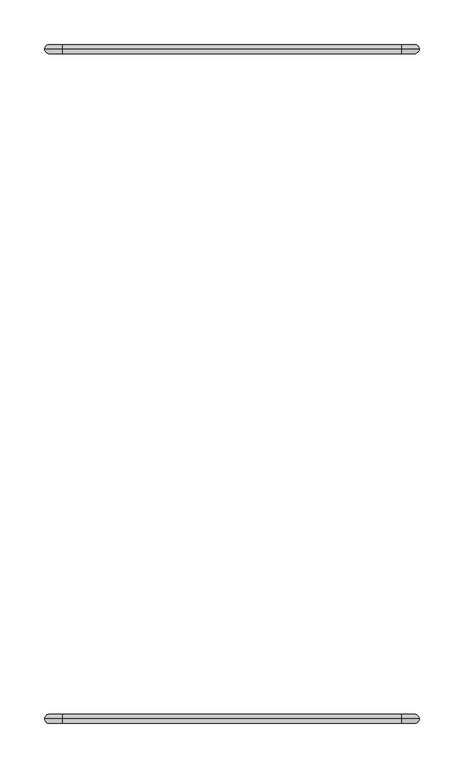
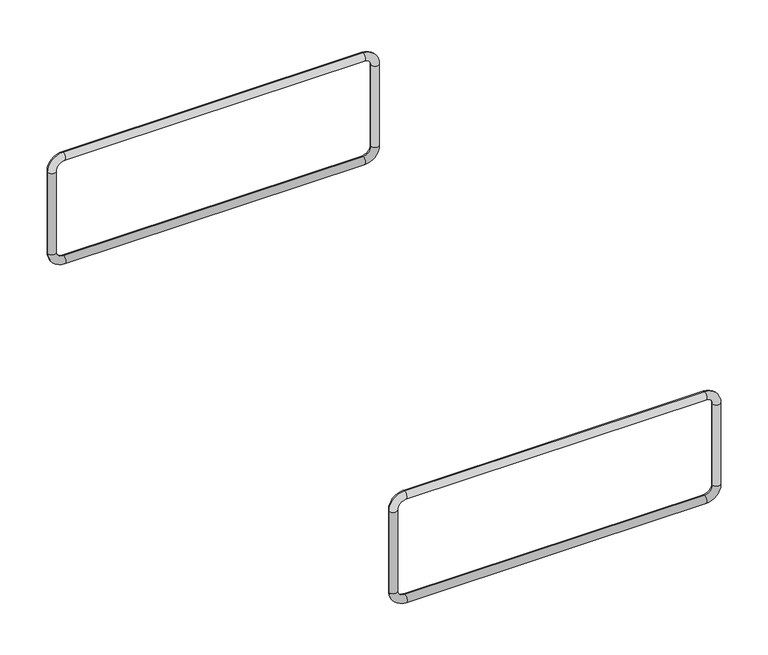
"""IFC4 building model written with IfcOpenShell, lengths in millimetres: fastener geometry, ACINOXplus_Typenreihe_Ux-Ox : OC+ S1."""

from ifc_helpers import new_model, si_unit, point, frame, origin, place, context, project, spatial, circle_curve, ellipse_curve, trimmed, source, transform, mapped, element, save
from ifc_brep_helpers import cylinder_surface, revolved_surface, advanced_brep


def fastener_2ea23784(model_context):
    return source(origin(), model_context, "Body", "AdvancedBrep", [
        advanced_brep(
        [(190.0, 375.0, -35.5), (190.0, 375.0, -25.5), (-190.0, 375.0, -25.5), (-190.0, 375.0, -35.5), (-200.0, 375.0, -45.5), (-210.0, 375.0, -45.5), (-210.0, 375.0, -154.5), (-200.0, 375.0, -154.5), (-190.0, 375.0, -164.5), (-190.0, 375.0, -174.5), (190.0, 375.0, -174.5), (190.0, 375.0, -164.5), (200.0, 375.0, -154.5), (210.0, 375.0, -154.5), (210.0, 375.0, -45.5), (200.0, 375.0, -45.5)],
        [
            (0, 1, circle_curve(frame((190.0, 375.0, -30.5), z_axis=(-1.0, 0.0, 0.0), x_axis=(0.0, 0.0, -1.0)), 5.0)),
            (1, 2),
            (2, 3, circle_curve(frame((-190.0, 375.0, -30.5), z_axis=(1.0, 0.0, 0.0), x_axis=(0.0, 0.0, -1.0)), 5.0)),
            (3, 0),
            (1, 0, circle_curve(frame((190.0, 375.0, -30.5), z_axis=(-1.0, 0.0, 0.0), x_axis=(0.0, 0.0, -1.0)), 5.0)),
            (3, 2, circle_curve(frame((-190.0, 375.0, -30.5), z_axis=(1.0, 0.0, 0.0), x_axis=(0.0, 0.0, -1.0)), 5.0)),
            (4, 3, circle_curve(frame((-190.0, 375.0, -45.5), z_axis=(0.0, 1.0, 0.0), x_axis=(0.0, 0.0, 1.0)), 10.0)),
            (2, 5, circle_curve(frame((-190.0, 375.0, -45.5), z_axis=(0.0, -1.0, 0.0), x_axis=(0.0, 0.0, 1.0)), 20.0)),
            (5, 4, circle_curve(frame((-205.0, 375.0, -45.5), z_axis=(0.0, 0.0, 1.0), x_axis=(1.0, 0.0, 0.0)), 5.0)),
            (4, 5, circle_curve(frame((-205.0, 375.0, -45.5), z_axis=(0.0, 0.0, 1.0), x_axis=(1.0, 0.0, 0.0)), 5.0)),
            (5, 6),
            (6, 7, circle_curve(frame((-205.0, 375.0, -154.5), z_axis=(0.0, 0.0, 1.0), x_axis=(1.0, 0.0, 0.0)), 5.0)),
            (7, 4),
            (7, 6, circle_curve(frame((-205.0, 375.0, -154.5), z_axis=(0.0, 0.0, 1.0), x_axis=(1.0, 0.0, 0.0)), 5.0)),
            (8, 7, circle_curve(frame((-190.0, 375.0, -154.5), z_axis=(0.0, 1.0, 0.0), x_axis=(-1.0, 0.0, 0.0)), 10.0)),
            (6, 9, circle_curve(frame((-190.0, 375.0, -154.5), z_axis=(0.0, -1.0, 0.0), x_axis=(-1.0, 0.0, 0.0)), 20.0)),
            (9, 8, circle_curve(frame((-190.0, 375.0, -169.5), z_axis=(-1.0, 0.0, 0.0), x_axis=(0.0, 0.0, 1.0)), 5.0)),
            (8, 9, circle_curve(frame((-190.0, 375.0, -169.5), z_axis=(-1.0, 0.0, 0.0), x_axis=(0.0, 0.0, 1.0)), 5.0)),
            (9, 10),
            (10, 11, circle_curve(frame((190.0, 375.0, -169.5), z_axis=(-1.0, 0.0, 0.0), x_axis=(0.0, 0.0, 1.0)), 5.0)),
            (11, 8),
            (11, 10, circle_curve(frame((190.0, 375.0, -169.5), z_axis=(-1.0, 0.0, 0.0), x_axis=(0.0, 0.0, 1.0)), 5.0)),
            (12, 11, circle_curve(frame((190.0, 375.0, -154.5), z_axis=(0.0, 1.0, 0.0), x_axis=(0.0, 0.0, -1.0)), 10.0)),
            (10, 13, circle_curve(frame((190.0, 375.0, -154.5), z_axis=(0.0, -1.0, 0.0), x_axis=(0.0, 0.0, -1.0)), 20.0)),
            (13, 12, circle_curve(frame((205.0, 375.0, -154.5), z_axis=(0.0, 0.0, -1.0), x_axis=(-1.0, 0.0, 0.0)), 5.0)),
            (12, 13, circle_curve(frame((205.0, 375.0, -154.5), z_axis=(0.0, 0.0, -1.0), x_axis=(-1.0, 0.0, 0.0)), 5.0)),
            (13, 14),
            (14, 15, circle_curve(frame((205.0, 375.0, -45.5), z_axis=(0.0, 0.0, -1.0), x_axis=(-1.0, 0.0, 0.0)), 5.0)),
            (15, 12),
            (15, 14, circle_curve(frame((205.0, 375.0, -45.5), z_axis=(0.0, 0.0, -1.0), x_axis=(-1.0, 0.0, 0.0)), 5.0)),
            (0, 15, circle_curve(frame((190.0, 375.0, -45.5), z_axis=(0.0, 1.0, 0.0), x_axis=(1.0, 0.0, 0.0)), 10.0)),
            (14, 1, circle_curve(frame((190.0, 375.0, -45.5), z_axis=(0.0, -1.0, 0.0), x_axis=(1.0, 0.0, 0.0)), 20.0)),
        ],
        [
            cylinder_surface(frame((190.0, 375.0, -30.5), z_axis=(1.0, 0.0, 0.0), x_axis=(0.0, 0.0, -1.0)), 5.0),
            revolved_surface(trimmed(ellipse_curve(frame((-190.0, 375.0, -30.5), z_axis=(1.0, 0.0, 0.0), x_axis=(0.0, 0.0, -1.0)), 5.0, 5.0), [point((-190.0, 375.0, -25.5))], [point((-190.0, 375.0, -35.5))], True, "CARTESIAN"), (-190.0, 375.0, -45.5), (0.0, -1.0, 0.0)),
            revolved_surface(trimmed(ellipse_curve(frame((-190.0, 375.0, -30.5), z_axis=(1.0, 0.0, 0.0), x_axis=(0.0, 0.0, -1.0)), 5.0, 5.0), [point((-190.0, 375.0, -35.5))], [point((-190.0, 375.0, -25.5))], True, "CARTESIAN"), (-190.0, 375.0, -45.5), (0.0, -1.0, 0.0)),
            cylinder_surface(frame((-205.0, 375.0, -45.5), z_axis=(0.0, 0.0, 1.0), x_axis=(1.0, 0.0, 0.0)), 5.0),
            revolved_surface(trimmed(ellipse_curve(frame((-205.0, 375.0, -154.5), z_axis=(0.0, 0.0, 1.0), x_axis=(1.0, 0.0, 0.0)), 5.0, 5.0), [point((-210.0, 375.0, -154.5))], [point((-200.0, 375.0, -154.5))], True, "CARTESIAN"), (-190.0, 375.0, -154.5), (0.0, -1.0, 0.0)),
            revolved_surface(trimmed(ellipse_curve(frame((-205.0, 375.0, -154.5), z_axis=(0.0, 0.0, 1.0), x_axis=(1.0, 0.0, 0.0)), 5.0, 5.0), [point((-200.0, 375.0, -154.5))], [point((-210.0, 375.0, -154.5))], True, "CARTESIAN"), (-190.0, 375.0, -154.5), (0.0, -1.0, 0.0)),
            cylinder_surface(frame((-190.0, 375.0, -169.5), z_axis=(-1.0, 0.0, 0.0), x_axis=(0.0, 0.0, 1.0)), 5.0),
            revolved_surface(trimmed(ellipse_curve(frame((190.0, 375.0, -169.5), z_axis=(-1.0, 0.0, 0.0), x_axis=(0.0, 0.0, 1.0)), 5.0, 5.0), [point((190.0, 375.0, -174.5))], [point((190.0, 375.0, -164.5))], True, "CARTESIAN"), (190.0, 375.0, -154.5), (0.0, -1.0, 0.0)),
            revolved_surface(trimmed(ellipse_curve(frame((190.0, 375.0, -169.5), z_axis=(-1.0, 0.0, 0.0), x_axis=(0.0, 0.0, 1.0)), 5.0, 5.0), [point((190.0, 375.0, -164.5))], [point((190.0, 375.0, -174.5))], True, "CARTESIAN"), (190.0, 375.0, -154.5), (0.0, -1.0, 0.0)),
            cylinder_surface(frame((205.0, 375.0, -154.5), z_axis=(0.0, 0.0, -1.0), x_axis=(-1.0, 0.0, 0.0)), 5.0),
            revolved_surface(trimmed(ellipse_curve(frame((205.0, 375.0, -45.5), z_axis=(0.0, 0.0, -1.0), x_axis=(-1.0, 0.0, 0.0)), 5.0, 5.0), [point((210.0, 375.0, -45.5))], [point((200.0, 375.0, -45.5))], True, "CARTESIAN"), (190.0, 375.0, -45.5), (0.0, -1.0, 0.0)),
            revolved_surface(trimmed(ellipse_curve(frame((205.0, 375.0, -45.5), z_axis=(0.0, 0.0, -1.0), x_axis=(-1.0, 0.0, 0.0)), 5.0, 5.0), [point((200.0, 375.0, -45.5))], [point((210.0, 375.0, -45.5))], True, "CARTESIAN"), (190.0, 375.0, -45.5), (0.0, -1.0, 0.0)),
        ],
        [
            (0, [[1, 2, 3, 4]]),
            (0, [[5, -4, 6, -2]]),
            (1, [[7, -3, 8, 9]]),
            (2, [[-8, -6, -7, 10]]),
            (3, [[-9, 11, 12, 13]]),
            (3, [[-10, -13, 14, -11]]),
            (4, [[15, -12, 16, 17]]),
            (5, [[-16, -14, -15, 18]]),
            (6, [[-17, 19, 20, 21]]),
            (6, [[-18, -21, 22, -19]]),
            (7, [[23, -20, 24, 25]]),
            (8, [[-24, -22, -23, 26]]),
            (9, [[-25, 27, 28, 29]]),
            (9, [[-26, -29, 30, -27]]),
            (10, [[31, -28, 32, -1]]),
            (11, [[-32, -30, -31, -5]]),
        ],
    ),
        advanced_brep(
        [(190.0, -375.0, -35.5), (190.0, -375.0, -25.5), (-190.0, -375.0, -25.5), (-190.0, -375.0, -35.5), (-200.0, -375.0, -45.5), (-210.0, -375.0, -45.5), (-210.0, -375.0, -154.5), (-200.0, -375.0, -154.5), (-190.0, -375.0, -164.5), (-190.0, -375.0, -174.5), (190.0, -375.0, -174.5), (190.0, -375.0, -164.5), (200.0, -375.0, -154.5), (210.0, -375.0, -154.5), (210.0, -375.0, -45.5), (200.0, -375.0, -45.5)],
        [
            (0, 1, circle_curve(frame((190.0, -375.0, -30.5), z_axis=(-1.0, 0.0, 0.0), x_axis=(0.0, 0.0, -1.0)), 5.0)),
            (1, 2),
            (2, 3, circle_curve(frame((-190.0, -375.0, -30.5), z_axis=(1.0, 0.0, 0.0), x_axis=(0.0, 0.0, -1.0)), 5.0)),
            (3, 0),
            (1, 0, circle_curve(frame((190.0, -375.0, -30.5), z_axis=(-1.0, 0.0, 0.0), x_axis=(0.0, 0.0, -1.0)), 5.0)),
            (3, 2, circle_curve(frame((-190.0, -375.0, -30.5), z_axis=(1.0, 0.0, 0.0), x_axis=(0.0, 0.0, -1.0)), 5.0)),
            (4, 3, circle_curve(frame((-190.0, -375.0, -45.5), z_axis=(0.0, 1.0, 0.0), x_axis=(0.0, 0.0, 1.0)), 10.0)),
            (2, 5, circle_curve(frame((-190.0, -375.0, -45.5), z_axis=(0.0, -1.0, 0.0), x_axis=(0.0, 0.0, 1.0)), 20.0)),
            (5, 4, circle_curve(frame((-205.0, -375.0, -45.5), z_axis=(0.0, 0.0, 1.0), x_axis=(1.0, 0.0, 0.0)), 5.0)),
            (4, 5, circle_curve(frame((-205.0, -375.0, -45.5), z_axis=(0.0, 0.0, 1.0), x_axis=(1.0, 0.0, 0.0)), 5.0)),
            (5, 6),
            (6, 7, circle_curve(frame((-205.0, -375.0, -154.5), z_axis=(0.0, 0.0, 1.0), x_axis=(1.0, 0.0, 0.0)), 5.0)),
            (7, 4),
            (7, 6, circle_curve(frame((-205.0, -375.0, -154.5), z_axis=(0.0, 0.0, 1.0), x_axis=(1.0, 0.0, 0.0)), 5.0)),
            (8, 7, circle_curve(frame((-190.0, -375.0, -154.5), z_axis=(0.0, 1.0, 0.0), x_axis=(-1.0, 0.0, 0.0)), 10.0)),
            (6, 9, circle_curve(frame((-190.0, -375.0, -154.5), z_axis=(0.0, -1.0, 0.0), x_axis=(-1.0, 0.0, 0.0)), 20.0)),
            (9, 8, circle_curve(frame((-190.0, -375.0, -169.5), z_axis=(-1.0, 0.0, 0.0), x_axis=(0.0, 0.0, 1.0)), 5.0)),
            (8, 9, circle_curve(frame((-190.0, -375.0, -169.5), z_axis=(-1.0, 0.0, 0.0), x_axis=(0.0, 0.0, 1.0)), 5.0)),
            (9, 10),
            (10, 11, circle_curve(frame((190.0, -375.0, -169.5), z_axis=(-1.0, 0.0, 0.0), x_axis=(0.0, 0.0, 1.0)), 5.0)),
            (11, 8),
            (11, 10, circle_curve(frame((190.0, -375.0, -169.5), z_axis=(-1.0, 0.0, 0.0), x_axis=(0.0, 0.0, 1.0)), 5.0)),
            (12, 11, circle_curve(frame((190.0, -375.0, -154.5), z_axis=(0.0, 1.0, 0.0), x_axis=(0.0, 0.0, -1.0)), 10.0)),
            (10, 13, circle_curve(frame((190.0, -375.0, -154.5), z_axis=(0.0, -1.0, 0.0), x_axis=(0.0, 0.0, -1.0)), 20.0)),
            (13, 12, circle_curve(frame((205.0, -375.0, -154.5), z_axis=(0.0, 0.0, -1.0), x_axis=(-1.0, 0.0, 0.0)), 5.0)),
            (12, 13, circle_curve(frame((205.0, -375.0, -154.5), z_axis=(0.0, 0.0, -1.0), x_axis=(-1.0, 0.0, 0.0)), 5.0)),
            (13, 14),
            (14, 15, circle_curve(frame((205.0, -375.0, -45.5), z_axis=(0.0, 0.0, -1.0), x_axis=(-1.0, 0.0, 0.0)), 5.0)),
            (15, 12),
            (15, 14, circle_curve(frame((205.0, -375.0, -45.5), z_axis=(0.0, 0.0, -1.0), x_axis=(-1.0, 0.0, 0.0)), 5.0)),
            (0, 15, circle_curve(frame((190.0, -375.0, -45.5), z_axis=(0.0, 1.0, 0.0), x_axis=(1.0, 0.0, 0.0)), 10.0)),
            (14, 1, circle_curve(frame((190.0, -375.0, -45.5), z_axis=(0.0, -1.0, 0.0), x_axis=(1.0, 0.0, 0.0)), 20.0)),
        ],
        [
            cylinder_surface(frame((190.0, -375.0, -30.5), z_axis=(1.0, 0.0, 0.0), x_axis=(0.0, 0.0, -1.0)), 5.0),
            revolved_surface(trimmed(ellipse_curve(frame((-190.0, -375.0, -30.5), z_axis=(1.0, 0.0, 0.0), x_axis=(0.0, 0.0, -1.0)), 5.0, 5.0), [point((-190.0, -375.0, -25.5))], [point((-190.0, -375.0, -35.5))], True, "CARTESIAN"), (-190.0, -375.0, -45.5), (0.0, -1.0, 0.0)),
            revolved_surface(trimmed(ellipse_curve(frame((-190.0, -375.0, -30.5), z_axis=(1.0, 0.0, 0.0), x_axis=(0.0, 0.0, -1.0)), 5.0, 5.0), [point((-190.0, -375.0, -35.5))], [point((-190.0, -375.0, -25.5))], True, "CARTESIAN"), (-190.0, -375.0, -45.5), (0.0, -1.0, 0.0)),
            cylinder_surface(frame((-205.0, -375.0, -45.5), z_axis=(0.0, 0.0, 1.0), x_axis=(1.0, 0.0, 0.0)), 5.0),
            revolved_surface(trimmed(ellipse_curve(frame((-205.0, -375.0, -154.5), z_axis=(0.0, 0.0, 1.0), x_axis=(1.0, 0.0, 0.0)), 5.0, 5.0), [point((-210.0, -375.0, -154.5))], [point((-200.0, -375.0, -154.5))], True, "CARTESIAN"), (-190.0, -375.0, -154.5), (0.0, -1.0, 0.0)),
            revolved_surface(trimmed(ellipse_curve(frame((-205.0, -375.0, -154.5), z_axis=(0.0, 0.0, 1.0), x_axis=(1.0, 0.0, 0.0)), 5.0, 5.0), [point((-200.0, -375.0, -154.5))], [point((-210.0, -375.0, -154.5))], True, "CARTESIAN"), (-190.0, -375.0, -154.5), (0.0, -1.0, 0.0)),
            cylinder_surface(frame((-190.0, -375.0, -169.5), z_axis=(-1.0, 0.0, 0.0), x_axis=(0.0, 0.0, 1.0)), 5.0),
            revolved_surface(trimmed(ellipse_curve(frame((190.0, -375.0, -169.5), z_axis=(-1.0, 0.0, 0.0), x_axis=(0.0, 0.0, 1.0)), 5.0, 5.0), [point((190.0, -375.0, -174.5))], [point((190.0, -375.0, -164.5))], True, "CARTESIAN"), (190.0, -375.0, -154.5), (0.0, -1.0, 0.0)),
            revolved_surface(trimmed(ellipse_curve(frame((190.0, -375.0, -169.5), z_axis=(-1.0, 0.0, 0.0), x_axis=(0.0, 0.0, 1.0)), 5.0, 5.0), [point((190.0, -375.0, -164.5))], [point((190.0, -375.0, -174.5))], True, "CARTESIAN"), (190.0, -375.0, -154.5), (0.0, -1.0, 0.0)),
            cylinder_surface(frame((205.0, -375.0, -154.5), z_axis=(0.0, 0.0, -1.0), x_axis=(-1.0, 0.0, 0.0)), 5.0),
            revolved_surface(trimmed(ellipse_curve(frame((205.0, -375.0, -45.5), z_axis=(0.0, 0.0, -1.0), x_axis=(-1.0, 0.0, 0.0)), 5.0, 5.0), [point((210.0, -375.0, -45.5))], [point((200.0, -375.0, -45.5))], True, "CARTESIAN"), (190.0, -375.0, -45.5), (0.0, -1.0, 0.0)),
            revolved_surface(trimmed(ellipse_curve(frame((205.0, -375.0, -45.5), z_axis=(0.0, 0.0, -1.0), x_axis=(-1.0, 0.0, 0.0)), 5.0, 5.0), [point((200.0, -375.0, -45.5))], [point((210.0, -375.0, -45.5))], True, "CARTESIAN"), (190.0, -375.0, -45.5), (0.0, -1.0, 0.0)),
        ],
        [
            (0, [[1, 2, 3, 4]]),
            (0, [[5, -4, 6, -2]]),
            (1, [[7, -3, 8, 9]]),
            (2, [[-8, -6, -7, 10]]),
            (3, [[-9, 11, 12, 13]]),
            (3, [[-10, -13, 14, -11]]),
            (4, [[15, -12, 16, 17]]),
            (5, [[-16, -14, -15, 18]]),
            (6, [[-17, 19, 20, 21]]),
            (6, [[-18, -21, 22, -19]]),
            (7, [[23, -20, 24, 25]]),
            (8, [[-24, -22, -23, 26]]),
            (9, [[-25, 27, 28, 29]]),
            (9, [[-26, -29, 30, -27]]),
            (10, [[31, -28, 32, -1]]),
            (11, [[-32, -30, -31, -5]]),
        ],
    ),
    ])


if __name__ == "__main__":
    model = new_model("IFC4")
    model_context = context("Model", 3, world=origin())
    ifc_project = project(units=[si_unit("LENGTHUNIT", "METRE", prefix="MILLI")], contexts=[model_context])
    site = spatial("IfcSite", under=ifc_project)
    building = spatial("IfcBuilding", under=site)
    placement = place(None, origin())
    fastener_shape = fastener_2ea23784(model_context)
    element("IfcFastener", 1, ObjectType="ACINOXplus_Typenreihe_Ux-Ox : OC+ S1", at=placement, inside=building, context=model_context, shape_type="MappedRepresentation", body=[
        mapped(fastener_shape, transform((0.0, 0.0, 0.0), x_axis=(1.0, 0.0, 0.0), y_axis=(0.0, 1.0, 0.0), z_axis=(0.0, 0.0, 1.0))),
    ])
    save(model, "model.ifc")
